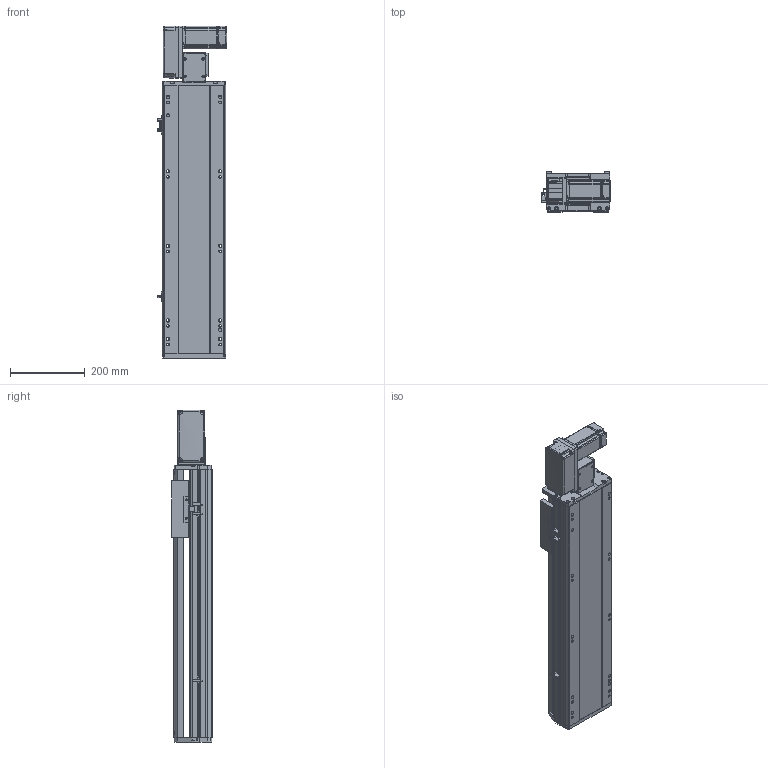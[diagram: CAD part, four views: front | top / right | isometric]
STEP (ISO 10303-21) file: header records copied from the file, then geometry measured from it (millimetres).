
FILE_DESCRIPTION (( 'STEP AP214' ), '1' );
FILE_NAME ('RTB17S-XX-450-L-M40-C4.STEP', '2025-12-11T03:51:11', ( '' ), ( '' ), 'SwSTEP 2.0', 'SolidWorks 2018', '' );
FILE_SCHEMA (( 'AUTOMOTIVE_DESIGN' ));
Length unit declared in the file: millimetre
Products named in the file (14): RTB17S-L-々湍釱蚾饜-400W^RTB17S-XX-XX-L-M40-C4; RTB14-L-008-M20--萇儂啣^RTB17S-L-々湍釱蚾饜-400W_RTB17S-XX-XX-L-M40-C4; RTB14-L-017P^RTB17S-L-々湍釱蚾饜-400W_RTB17S-XX-XX-L-M40-C4; OMRON EE-SX672 传感器^RTB17S-XX-XX-L-M40-C4; RTB17-R-011菁釱^RTB17S-XX-XX-L-M40-C4; RTB17S-XX-450-L-M40-C4; RTB14-L-005P--轴承塑胶压盖^RTB17S-L-皮带座装配-400W_RTB17S-XX-XX-L-M40-C4; RTB17S-L-001耜醱啣^RTB17S-XX-XX-L-M40-C4; RTB14-L-018P^RTB17S-L-々湍釱蚾饜-400W_RTB17S-XX-XX-L-M40-C4; RMP17S-L-014-T20--々湍釱^RTB17S-L-々湍釱蚾饜-400W_RTB17S-XX-XX-L-M40-C4; 400W侜督萇儂^RTB17S-XX-XX-L-M40-C4; RTB17S-L-007奻裔^RTB17S-XX-XX-L-M40-C4; RTB17S-L-004佪裝蹟譫蟀諉釱^RTB17S-XX-XX-L-M40-C4; RTH13-BL-012覜茼え俋离^RTB17S-XX-XX-L-M40-C4
Assembly tree (16 placements, depth 3):
  RTB17S-XX-450-L-M40-C4
    RTB17-R-011菁釱^RTB17S-XX-XX-L-M40-C4
    RTB17S-L-007奻裔^RTB17S-XX-XX-L-M40-C4
    OMRON EE-SX672 传感器^RTB17S-XX-XX-L-M40-C4  x3
    RTB17S-L-001耜醱啣^RTB17S-XX-XX-L-M40-C4
    400W侜督萇儂^RTB17S-XX-XX-L-M40-C4
    RTB17S-L-004佪裝蹟譫蟀諉釱^RTB17S-XX-XX-L-M40-C4
    RTH13-BL-012覜茼え俋离^RTB17S-XX-XX-L-M40-C4
    RTB17S-L-々湍釱蚾饜-400W^RTB17S-XX-XX-L-M40-C4
      RMP17S-L-014-T20--々湍釱^RTB17S-L-々湍釱蚾饜-400W_RTB17S-XX-XX-L-M40-C4
      RTB14-L-005P--轴承塑胶压盖^RTB17S-L-皮带座装配-400W_RTB17S-XX-XX-L-M40-C4
      RTB14-L-008-M20--萇儂啣^RTB17S-L-々湍釱蚾饜-400W_RTB17S-XX-XX-L-M40-C4
      RTB14-L-017P^RTB17S-L-々湍釱蚾饜-400W_RTB17S-XX-XX-L-M40-C4  x2
      RTB14-L-018P^RTB17S-L-々湍釱蚾饜-400W_RTB17S-XX-XX-L-M40-C4
Bounding box: 186 x 108 x 891 mm (x, y, z)
Volume: 7883927 mm3; surface area: 1010753.2 mm2
Topology: 15 solids, 15 shells, 2173 faces, 5979 edges, 3897 vertices
Faces by surface type: plane 1064, cylinder 661, bspline 301, cone 139, torus 8
Entity records: 61097 total; most frequent: CARTESIAN_POINT 16984, ORIENTED_EDGE 8802, DIRECTION 8216, EDGE_CURVE 4401, VERTEX_POINT 2885, AXIS2_PLACEMENT_3D 2815, LINE 2586, VECTOR 2586
